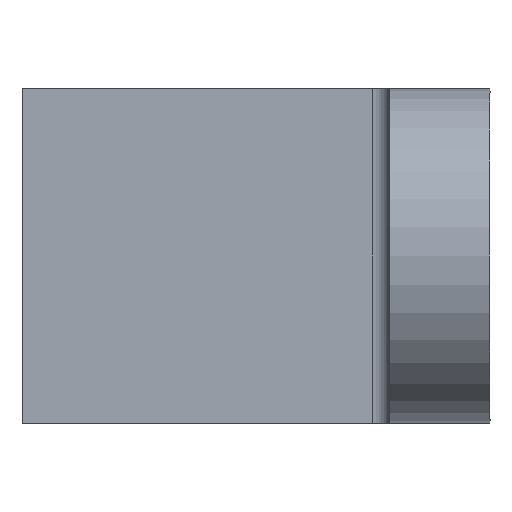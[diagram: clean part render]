
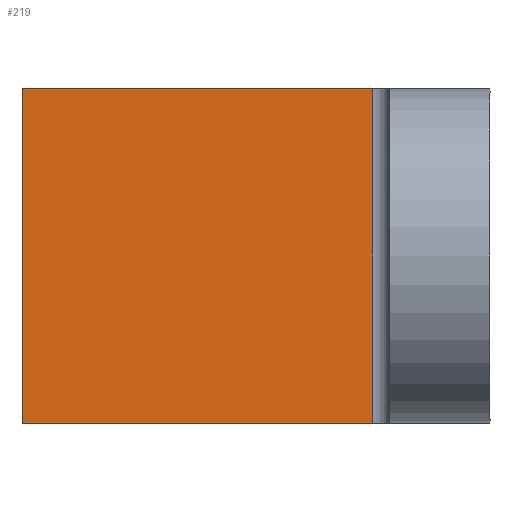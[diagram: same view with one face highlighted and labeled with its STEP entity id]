
A CAD part, left-side view. The second image highlights one B-rep face of the part: STEP entity #219.
In plain terms, the highlighted planar face has unit normal (-1, 0, 0).
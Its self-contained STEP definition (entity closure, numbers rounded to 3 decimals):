
#21=PLANE('',#254);
#37=FACE_OUTER_BOUND('',#51,.T.);
#51=EDGE_LOOP('',(#193,#194,#195,#196));
#60=LINE('',#347,#80);
#69=LINE('',#372,#89);
#71=LINE('',#377,#91);
#72=LINE('',#378,#92);
#80=VECTOR('',#283,10.);
#89=VECTOR('',#308,10.);
#91=VECTOR('',#314,10.);
#92=VECTOR('',#315,10.);
#111=VERTEX_POINT('',#344);
#112=VERTEX_POINT('',#346);
#119=VERTEX_POINT('',#368);
#121=VERTEX_POINT('',#376);
#133=EDGE_CURVE('',#111,#112,#60,.T.);
#146=EDGE_CURVE('',#112,#119,#69,.T.);
#148=EDGE_CURVE('',#121,#111,#71,.T.);
#149=EDGE_CURVE('',#119,#121,#72,.T.);
#193=ORIENTED_EDGE('',*,*,#146,.F.);
#194=ORIENTED_EDGE('',*,*,#133,.F.);
#195=ORIENTED_EDGE('',*,*,#148,.F.);
#196=ORIENTED_EDGE('',*,*,#149,.F.);
#219=ADVANCED_FACE('',(#37),#21,.T.);
#254=AXIS2_PLACEMENT_3D('',#375,#312,#313);
#283=DIRECTION('',(0.,-1.,0.));
#308=DIRECTION('',(0.,0.,-1.));
#312=DIRECTION('center_axis',(-1.,0.,0.));
#313=DIRECTION('ref_axis',(0.,-1.,0.));
#314=DIRECTION('',(0.,0.,1.));
#315=DIRECTION('',(0.,1.,0.));
#344=CARTESIAN_POINT('',(-56.578,13.974,10.));
#346=CARTESIAN_POINT('',(-56.578,3.474,10.));
#347=CARTESIAN_POINT('',(-56.578,2.974,10.));
#368=CARTESIAN_POINT('',(-56.578,3.474,0.));
#372=CARTESIAN_POINT('',(-56.578,3.474,0.));
#375=CARTESIAN_POINT('Origin',(-56.578,13.974,0.));
#376=CARTESIAN_POINT('',(-56.578,13.974,0.));
#377=CARTESIAN_POINT('',(-56.578,13.974,0.));
#378=CARTESIAN_POINT('',(-56.578,2.974,0.));
